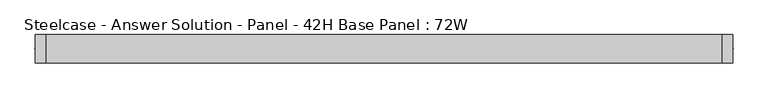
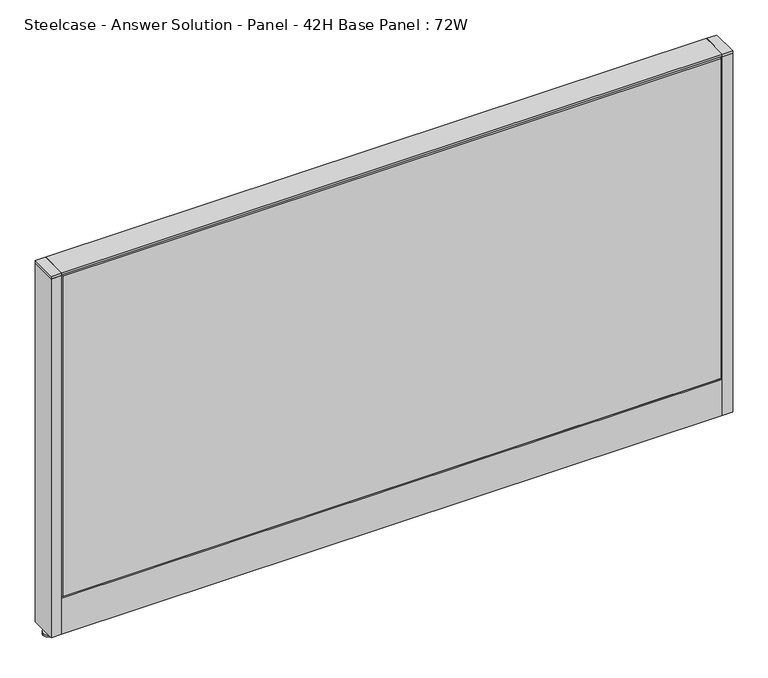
"""IFC4 building model written with IfcOpenShell, lengths in millimetres: furniture geometry, Steelcase - Answer Solution - Panel - 42H Base Panel : 72W."""

import ifcopenshell
import ifcopenshell.guid

model = None  # the IFC model being written
_history = None  # IfcOwnerHistory: only IFC2X3 demands one
_inside = {}  # id of a spatial element -> (the spatial element, [elements in it])
_under = {}  # id of a project, library or spatial element -> (it, [spatial elements below it])
_declared = {}  # id of a project -> (the project, [libraries it declares])
_typed = {}  # id of a type object -> (the type object, [elements of that type])
_made_of = {}  # id of a material, layer set ... -> (it, [elements and type objects made of it])


def new_model(schema):
    """Start an empty IFC model of exactly this schema.

    Asked for "IFC4X3", IfcOpenShell would pick the latest addendum, in which some entities
    have other attributes; the version numbers below select the first issue.
    IFC2X3 requires an IfcOwnerHistory on every rooted entity: one is made here for all.
    """
    global model, _history
    if schema == "IFC4X3":
        model = ifcopenshell.file(schema_version=(4, 3, 0, 0))
    else:
        model = ifcopenshell.file(schema=schema)
    _inside.clear()
    _under.clear()
    _declared.clear()
    _typed.clear()
    _made_of.clear()
    _history = None
    if model.schema == "IFC2X3":
        org = make("IfcOrganization", Name="unknown")
        user = make(
            "IfcPersonAndOrganization",
            ThePerson=make("IfcPerson", FamilyName="unknown"),
            TheOrganization=org,
        )
        app = make(
            "IfcApplication",
            ApplicationDeveloper=org,
            Version="unknown",
            ApplicationFullName="unknown",
            ApplicationIdentifier="unknown",
        )
        _history = make(
            "IfcOwnerHistory",
            OwningUser=user,
            OwningApplication=app,
            ChangeAction="ADDED",
            CreationDate=0,
        )
    return model


def make(cls, **values):
    """One entity of the class cls with the attributes given. An attribute that is None is left unset."""
    return model.create_entity(
        cls, **{name: value for name, value in values.items() if value is not None}
    )


def rooted(cls, **values):
    """An entity with a GlobalId (a new one), such as an element, a storey or a relation."""
    return make(cls, GlobalId=ifcopenshell.guid.new(), OwnerHistory=_history, **values)


def si_unit(unit_type, name, prefix=None):
    """IfcSIUnit, for example si_unit("LENGTHUNIT", "METRE", prefix="MILLI")."""
    return make("IfcSIUnit", UnitType=unit_type, Prefix=prefix, Name=name)


def assignment(units):
    """IfcUnitAssignment: the units of a project."""
    return None if units is None else make("IfcUnitAssignment", Units=units)


def point(xyz):
    """IfcCartesianPoint."""
    return None if xyz is None else make("IfcCartesianPoint", Coordinates=xyz)


def direction(xyz):
    """IfcDirection."""
    return None if xyz is None else make("IfcDirection", DirectionRatios=xyz)


def frame(location, z_axis=None, x_axis=None):
    """IfcAxis2Placement3D, a coordinate frame: its origin and axes. An axis left out is left unset."""
    return make(
        "IfcAxis2Placement3D",
        Location=point(location),
        Axis=direction(z_axis),
        RefDirection=direction(x_axis),
    )


def frame_2d(location, x_axis=None):
    """IfcAxis2Placement2D, a coordinate frame in the plane: its origin and x axis."""
    return make(
        "IfcAxis2Placement2D", Location=point(location), RefDirection=direction(x_axis)
    )


def origin():
    """The frame at (0, 0, 0) with its axes left unset."""
    return frame((0.0, 0.0, 0.0))


def place(relative_to, where):
    """IfcLocalPlacement: puts the frame where relative to a parent placement (None: the world)."""
    return make(
        "IfcLocalPlacement", PlacementRelTo=relative_to, RelativePlacement=where
    )


def context(
    kind, dimensions, precision=None, world=None, true_north=None, identifier=None
):
    """IfcGeometricRepresentationContext, for example the 3D "Model" context."""
    return make(
        "IfcGeometricRepresentationContext",
        ContextIdentifier=identifier,
        ContextType=kind,
        CoordinateSpaceDimension=dimensions,
        Precision=precision,
        WorldCoordinateSystem=world,
        TrueNorth=true_north,
    )


def project(units=None, contexts=None):
    """IfcProject with its units and contexts."""
    return rooted(
        "IfcProject",
        Name="project",
        RepresentationContexts=contexts,
        UnitsInContext=assignment(units),
    )


def spatial(cls, under=None, at=None, **own):
    """A site, building, storey or space (cls), placed at a placement, below another one or the project."""
    s = rooted(cls, ObjectPlacement=at, **own)
    if under is not None:
        _under.setdefault(under.id(), (under, []))[1].append(s)
    return s


def polyline(points):
    """IfcPolyline through the points."""
    return make("IfcPolyline", Points=[point(p) for p in points])


def circle_curve(where, radius):
    """IfcCircle in the frame where."""
    return make("IfcCircle", Position=where, Radius=radius)


def trimmed(basis, trim1, trim2, sense, master):
    """IfcTrimmedCurve: the piece of a basis curve between two trims."""
    return make(
        "IfcTrimmedCurve",
        BasisCurve=basis,
        Trim1=trim1,
        Trim2=trim2,
        SenseAgreement=sense,
        MasterRepresentation=master,
    )


def segment(curve, same_sense, transition):
    """IfcCompositeCurveSegment."""
    return make(
        "IfcCompositeCurveSegment",
        Transition=transition,
        SameSense=same_sense,
        ParentCurve=curve,
    )


def composite_curve(segments, self_intersect=None):
    """IfcCompositeCurve: segments joined end to end."""
    return make("IfcCompositeCurve", Segments=segments, SelfIntersect=self_intersect)


def outline(outer, holes=None, kind="AREA"):
    """IfcArbitraryClosedProfileDef: a profile drawn as a closed curve; with holes, ...WithVoids."""
    if holes is None:
        return make("IfcArbitraryClosedProfileDef", ProfileType=kind, OuterCurve=outer)
    return make(
        "IfcArbitraryProfileDefWithVoids",
        ProfileType=kind,
        OuterCurve=outer,
        InnerCurves=holes,
    )


def extrude(swept, where, along, depth):
    """IfcExtrudedAreaSolid: the profile swept, set in the frame where, extruded along a direction by depth."""
    return make(
        "IfcExtrudedAreaSolid",
        SweptArea=swept,
        Position=where,
        ExtrudedDirection=direction(along),
        Depth=depth,
    )


def faces_of(points, faces, orient=None, outer=None):
    """IfcFace entities. A face is a list of loops; a loop is a list of indices into points, from 0.

    orient and outer hold one flag for each loop. By default every Orientation is true, the
    first loop of a face is its IfcFaceOuterBound and the others are IfcFaceBound.
    """
    made = []
    for i, loops in enumerate(faces):
        bounds = []
        for j, loop in enumerate(loops):
            is_outer = j == 0 if outer is None else outer[i][j]
            bounds.append(
                make(
                    "IfcFaceOuterBound" if is_outer else "IfcFaceBound",
                    Bound=make("IfcPolyLoop", Polygon=[points[k] for k in loop]),
                    Orientation=True if orient is None else orient[i][j],
                )
            )
        made.append(make("IfcFace", Bounds=bounds))
    return made


def faceted_brep(points, faces, orient=None, outer=None, voids=None):
    """IfcFacetedBrep: a solid bounded by flat faces; with voids (closed shells), ...WithVoids."""
    shared = [point(p) for p in points]
    hull = make("IfcClosedShell", CfsFaces=faces_of(shared, faces, orient, outer))
    if voids is None:
        return make("IfcFacetedBrep", Outer=hull)
    return make(
        "IfcFacetedBrepWithVoids",
        Outer=hull,
        Voids=[
            make(cls, CfsFaces=faces_of(shared, fs, o, b)) for cls, fs, o, b in voids
        ],
    )


def shape(context_of_items, identifier, shape_type, items):
    """IfcShapeRepresentation: the items that make up one representation, for example the "Body"."""
    return make(
        "IfcShapeRepresentation",
        ContextOfItems=context_of_items,
        RepresentationIdentifier=identifier,
        RepresentationType=shape_type,
        Items=items,
    )


def source(mapping_origin, context_of_items, identifier, shape_type, items):
    """IfcRepresentationMap: a shape defined once, which mapped items show again and again."""
    return make(
        "IfcRepresentationMap",
        MappingOrigin=mapping_origin,
        MappedRepresentation=shape(context_of_items, identifier, shape_type, items),
    )


def transform(
    local_origin,
    x_axis=None,
    y_axis=None,
    z_axis=None,
    scale=None,
    scale2=None,
    scale3=None,
    uniform=True,
):
    """IfcCartesianTransformationOperator3D, or its non-uniform kind. x_axis, y_axis, z_axis: its Axis1, 2, 3."""
    if uniform:
        return make(
            "IfcCartesianTransformationOperator3D",
            Axis1=direction(x_axis),
            Axis2=direction(y_axis),
            LocalOrigin=point(local_origin),
            Scale=scale,
            Axis3=direction(z_axis),
        )
    return make(
        "IfcCartesianTransformationOperator3DnonUniform",
        Axis1=direction(x_axis),
        Axis2=direction(y_axis),
        LocalOrigin=point(local_origin),
        Scale=scale,
        Axis3=direction(z_axis),
        Scale2=scale2,
        Scale3=scale3,
    )


def mapped(mapping_source, mapping_target):
    """IfcMappedItem: shows the shape of a source again, moved by a transform."""
    return make(
        "IfcMappedItem", MappingSource=mapping_source, MappingTarget=mapping_target
    )


def made_of(thing, what):
    """Note that an element or type object is made of a material, layer set ...; save() writes the relation."""
    if what is not None:
        _made_of.setdefault(what.id(), (what, []))[1].append(thing)
    return thing


def element(
    cls,
    number,
    at=None,
    inside=None,
    cuts=None,
    type_object=None,
    material=None,
    context=None,
    identifier="Body",
    shape_type=None,
    held_by="IfcProductDefinitionShape",
    body=None,
    shapes=None,
    **own,
):
    """One element of the class cls, such as IfcWall. Its Tag is "e" and its number.

    at: its placement. inside: the storey or other place that contains it. cuts: it is an
    opening in that element (IfcRelVoidsElement). A single representation is given by context,
    identifier, shape_type and body (its items); several are given by shapes. held_by: the class
    of the entity that holds the representations. save() writes the other relations.
    """
    e = rooted(cls, Tag="e%d" % number, ObjectPlacement=at, **own)
    if body is not None:
        shapes = [shape(context, identifier, shape_type, body)]
    if shapes is not None:
        e.Representation = make(held_by, Representations=shapes)
    if inside is not None:
        _inside.setdefault(inside.id(), (inside, []))[1].append(e)
    if cuts is not None:
        rooted(
            "IfcRelVoidsElement", RelatingBuildingElement=cuts, RelatedOpeningElement=e
        )
    if type_object is not None:
        _typed.setdefault(type_object.id(), (type_object, []))[1].append(e)
    return made_of(e, material)


def aggregate(whole, parts):
    """IfcRelAggregates: a whole, such as a stair, and the parts it consists of."""
    return rooted("IfcRelAggregates", RelatingObject=whole, RelatedObjects=parts)


def save(model, path):
    """Write the relations noted so far, then the file.

    IfcRelAggregates (storeys below a building ...), IfcRelContainedInSpatialStructure (elements
    in a storey), IfcRelDefinesByType, IfcRelAssociatesMaterial and IfcRelDeclares: one each for
    every whole, place, type object, material and project.
    """
    for whole, parts in _under.values():
        aggregate(whole, parts)
    for where, things in _inside.values():
        rooted(
            "IfcRelContainedInSpatialStructure",
            RelatedElements=things,
            RelatingStructure=where,
        )
    for kind, things in _typed.values():
        rooted("IfcRelDefinesByType", RelatedObjects=things, RelatingType=kind)
    for what, things in _made_of.values():
        rooted("IfcRelAssociatesMaterial", RelatedObjects=things, RelatingMaterial=what)
    for by, libraries in _declared.values():
        rooted("IfcRelDeclares", RelatingContext=by, RelatedDefinitions=libraries)
    model.write(path)


def steelcase_answer_solution_panel_42h_base_panel_72w_4ac32cfa(model_context):
    return source(origin(), model_context, "Body", "SolidModel", [
        extrude(outline(composite_curve([segment(trimmed(circle_curve(frame_2d((928.624, 0.0039657)), 5.08), [point((933.704, 0.0039657))], [point((923.544, 0.0039657))], False, "CARTESIAN"), True, "CONTINUOUS"), segment(trimmed(circle_curve(frame_2d((928.624, 0.0039657)), 5.08), [point((923.544, 0.0039657))], [point((933.704, 0.0039657))], False, "CARTESIAN"), True, "CONTINUOUS")], self_intersect=False)), frame((0.0, 0.0, 5.0799671), z_axis=(0.0, 0.0, 1.0), x_axis=(1.0, 0.0, 0.0)), (0.0, 0.0, 1.0), 10.414),
        extrude(outline(composite_curve([segment(trimmed(circle_curve(frame_2d((928.624, 0.0039657)), 15.24), [point((943.864, 0.0039657))], [point((913.384, 0.0039657))], False, "CARTESIAN"), True, "CONTINUOUS"), segment(trimmed(circle_curve(frame_2d((928.624, 0.0039657)), 15.24), [point((913.384, 0.0039657))], [point((943.864, 0.0039657))], False, "CARTESIAN"), True, "CONTINUOUS")], self_intersect=False)), frame((0.0, 0.0, -3.29e-05), z_axis=(0.0, 0.0, 1.0), x_axis=(1.0, 0.0, 0.0)), (0.0, 0.0, 1.0), 5.08),
        extrude(outline(polyline([(942.975, 38.1039851), (942.975, -38.0960149), (914.4, -38.0960149), (914.4, 38.1039851), (942.975, 38.1039851)])), frame((0.0, 0.0, 1065.8348), z_axis=(0.0, 0.0, 1.0), x_axis=(1.0, 0.0, 0.0)), (0.0, 0.0, 1.0), 7.3151671),
        extrude(outline(polyline([(942.975, 38.1039851), (942.975, -38.0960149), (914.4, -38.0960149), (914.4, 38.1039851), (942.975, 38.1039851)])), frame((0.0, 0.0, 15.4939671), z_axis=(0.0, 0.0, 1.0), x_axis=(1.0, 0.0, 0.0)), (0.0, 0.0, 1.0), 1050.3408329),
        extrude(outline(composite_curve([segment(trimmed(circle_curve(frame_2d((-928.624, 0.0039657)), 5.08), [point((-933.704, 0.0039657))], [point((-923.544, 0.0039657))], False, "CARTESIAN"), True, "CONTINUOUS"), segment(trimmed(circle_curve(frame_2d((-928.624, 0.0039657)), 5.08), [point((-923.544, 0.0039657))], [point((-933.704, 0.0039657))], False, "CARTESIAN"), True, "CONTINUOUS")], self_intersect=False)), frame((0.0, 0.0, 5.0799671), z_axis=(0.0, 0.0, 1.0), x_axis=(1.0, 0.0, 0.0)), (0.0, 0.0, 1.0), 10.414),
        extrude(outline(composite_curve([segment(trimmed(circle_curve(frame_2d((-928.624, 0.0039657)), 15.24), [point((-943.864, 0.0039657))], [point((-913.384, 0.0039657))], False, "CARTESIAN"), True, "CONTINUOUS"), segment(trimmed(circle_curve(frame_2d((-928.624, 0.0039657)), 15.24), [point((-913.384, 0.0039657))], [point((-943.864, 0.0039657))], False, "CARTESIAN"), True, "CONTINUOUS")], self_intersect=False)), frame((0.0, 0.0, -3.29e-05), z_axis=(0.0, 0.0, 1.0), x_axis=(1.0, 0.0, 0.0)), (0.0, 0.0, 1.0), 5.08),
        extrude(outline(polyline([(-942.975, 38.1039851), (-914.4, 38.1039851), (-914.4, -38.0960149), (-942.975, -38.0960149), (-942.975, 38.1039851)])), frame((0.0, 0.0, 1065.8348), z_axis=(0.0, 0.0, 1.0), x_axis=(1.0, 0.0, 0.0)), (0.0, 0.0, 1.0), 7.3151671),
        extrude(outline(polyline([(-942.975, 38.1039851), (-914.4, 38.1039851), (-914.4, -38.0960149), (-942.975, -38.0960149), (-942.975, 38.1039851)])), frame((0.0, 0.0, 15.4939671), z_axis=(0.0, 0.0, 1.0), x_axis=(1.0, 0.0, 0.0)), (0.0, 0.0, 1.0), 1050.3408329),
        faceted_brep([(-909.574, 38.1635011, 1061.974), (909.574, 38.1635011, 1061.974), (909.574, 38.1635011, 125.476), (-909.574, 38.1635011, 125.476), (-914.4, 33.3375011, 1066.8), (-914.4, 33.3375011, 120.65), (914.4, 33.3375011, 120.65), (914.4, 33.3375011, 1066.8)], [[[0, 1, 2, 3]], [[4, 5, 6, 7]], [[4, 7, 1, 0]], [[7, 6, 2, 1]], [[6, 5, 3, 2]], [[5, 4, 0, 3]]]),
        faceted_brep([(909.574, -38.1635011, 1061.974), (-909.574, -38.1635011, 1061.974), (-909.574, -38.1635011, 125.476), (909.574, -38.1635011, 125.476), (914.4, -33.3375011, 1066.8), (914.4, -33.3375011, 120.65), (-914.4, -33.3375011, 120.65), (-914.4, -33.3375011, 1066.8)], [[[0, 1, 2, 3]], [[4, 5, 6, 7]], [[4, 7, 1, 0]], [[7, 6, 2, 1]], [[6, 5, 3, 2]], [[5, 4, 0, 3]]]),
        extrude(outline(polyline([(914.4, 38.1000194), (914.4, -38.1000194), (-914.4, -38.1000194), (-914.4, 38.1000194), (914.4, 38.1000194)])), frame((0.0, 0.0, 1066.8), z_axis=(0.0, 0.0, 1.0), x_axis=(1.0, 0.0, 0.0)), (0.0, 0.0, 1.0), 6.35),
        extrude(outline(polyline([(25.4000011, 119.8575157), (25.4000011, 120.65), (38.1000194, 120.65), (38.1000194, 15.494), (37.3075215, 15.494), (37.3075215, 119.8575157), (25.4000011, 119.8575157)])), frame((-914.4, 0.0, 0.0), z_axis=(1.0, 0.0, 0.0), x_axis=(0.0, 1.0, 0.0)), (0.0, 0.0, 1.0), 1828.8),
        extrude(outline(polyline([(-25.4000011, 119.8575157), (-37.3075215, 119.8575157), (-37.3075215, 15.494), (-38.1000194, 15.494), (-38.1000194, 120.65), (-25.4000011, 120.65), (-25.4000011, 119.8575157)])), frame((-914.4, 0.0, 0.0), z_axis=(1.0, 0.0, 0.0), x_axis=(0.0, 1.0, 0.0)), (0.0, 0.0, 1.0), 1828.8),
    ])


if __name__ == "__main__":
    model = new_model("IFC4")
    model_context = context("Model", 3, world=origin())
    ifc_project = project(units=[si_unit("LENGTHUNIT", "METRE", prefix="MILLI")], contexts=[model_context])
    site = spatial("IfcSite", under=ifc_project)
    building = spatial("IfcBuilding", under=site)
    placement = place(None, origin())
    steelcase_answer_solution_panel_42h_base_panel_72w_shape = steelcase_answer_solution_panel_42h_base_panel_72w_4ac32cfa(model_context)
    element("IfcFurniture", 1, ObjectType="Steelcase - Answer Solution - Panel - 42H Base Panel : 72W", at=placement, inside=building, context=model_context, shape_type="MappedRepresentation", body=[
        mapped(steelcase_answer_solution_panel_42h_base_panel_72w_shape, transform((0.0, 0.0, 0.0), x_axis=(1.0, 0.0, 0.0), y_axis=(0.0, 1.0, 0.0), z_axis=(0.0, 0.0, 1.0))),
    ])
    save(model, "model.ifc")
